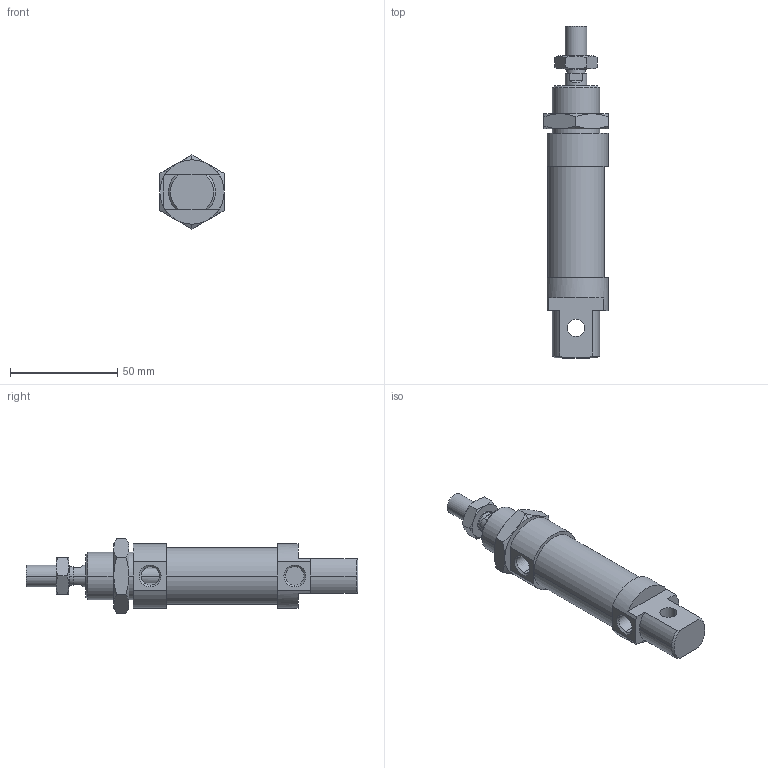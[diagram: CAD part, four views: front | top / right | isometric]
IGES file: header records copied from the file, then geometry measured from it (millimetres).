
Global section: file name: No Iges File Name specified; native system: AutoDesk Inventor R6.0; preprocessor: AutoDesk Inventor Iges Exporter R6.0; author: No Author specified; organization: No Organization specified; date: 20030407.191506; units: millimetre
Bounding box: 30 x 155 x 34.64 mm (x, y, z)
Volume: 68360.4 mm3; surface area: 19617.2 mm2
Topology: 4 solids, 4 shells, 124 faces, 281 edges, 170 vertices
Faces by surface type: plane 41, cone 38, bspline 21, cylinder 18, revolution 6
